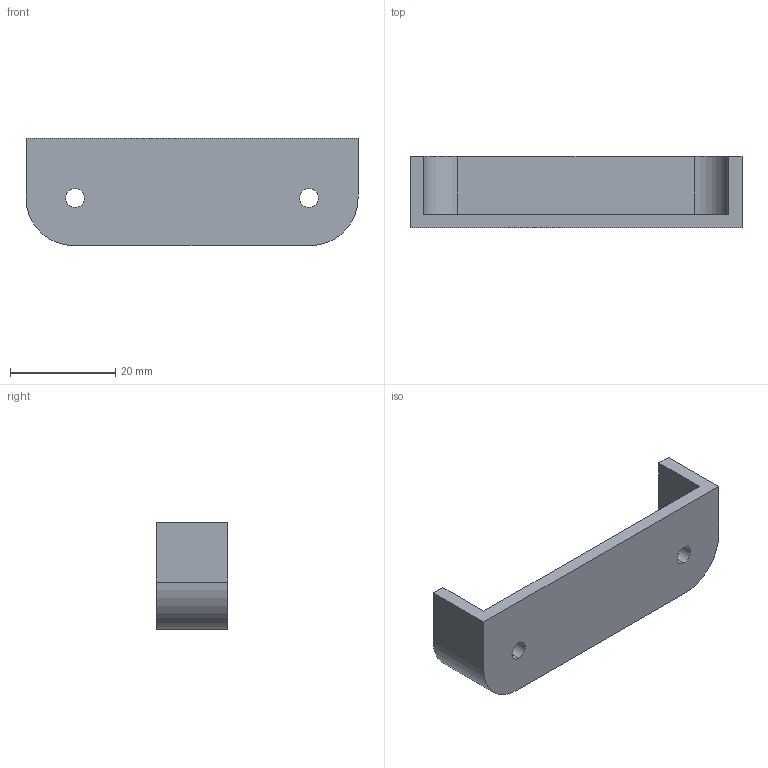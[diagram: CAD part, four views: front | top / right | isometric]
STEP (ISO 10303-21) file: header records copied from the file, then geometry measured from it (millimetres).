
FILE_DESCRIPTION (( 'STEP AP214' ), '1' );
FILE_NAME ('5060_V01_POCKET_OPEN_SGL_CLIP_SER.STEP', '2025-06-11T19:44:56', ( '' ), ( '' ), 'SwSTEP 2.0', 'SolidWorks 2025', '' );
FILE_SCHEMA (( 'AUTOMOTIVE_DESIGN' ));
Length unit declared in the file: inch
Products named in the file (1): 5060_V01_POCKET_OPEN_SGL_CLIP_SER
Bounding box: 63.12 x 13.54 x 20.37 mm (x, y, z)
Volume: 5699.5 mm3; surface area: 5004.8 mm2
Topology: 1 solids, 1 shells, 18 faces, 48 edges, 32 vertices
Faces by surface type: plane 10, cylinder 8
Entity records: 603 total; most frequent: DIRECTION 102, CARTESIAN_POINT 99, ORIENTED_EDGE 96, EDGE_CURVE 48, AXIS2_PLACEMENT_3D 35, LINE 32, VERTEX_POINT 32, VECTOR 32
